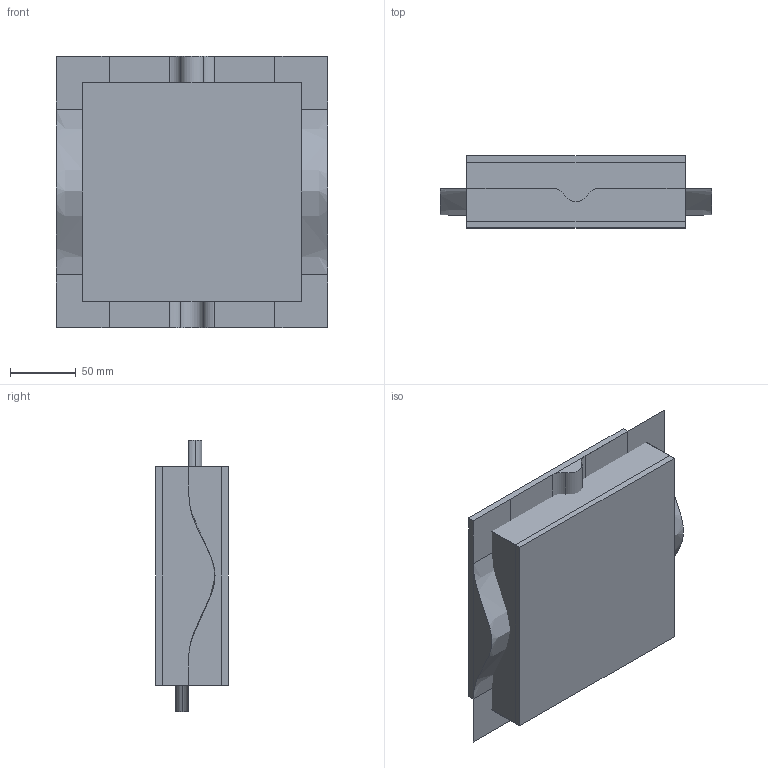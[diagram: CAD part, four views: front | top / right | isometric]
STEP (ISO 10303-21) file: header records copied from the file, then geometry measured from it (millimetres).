
FILE_DESCRIPTION(('CATIA V5 STEP Exchange'),'2;1');
FILE_NAME('C:\_Andres\UNIVERSIDAD\IQS\ASIGNATURAS\DAO\EXF\EXF-16172c\2inicio\Rabat_Riba_Ej02_v26.stp','2017-03-05T15:45:34+00:00',('none'),('none'),'CATIA Version 5-6 Release 2014 SP1 HF18','CATIA V5 STEP AP203','none');
FILE_SCHEMA(('CONFIG_CONTROL_DESIGN'));
Length unit declared in the file: millimetre
Products named in the file (1): Rabat_Riba_Ej02_v26
Bounding box: 206 x 55 x 206 mm (x, y, z)
Surface area: 275193.1 mm2
Topology: 3 solids, 10 shells, 72 faces, 205 edges, 150 vertices
Faces by surface type: bspline 32, plane 32, cylinder 6, extrusion 2
Entity records: 6230 total; most frequent: CARTESIAN_POINT 4913, ORIENTED_EDGE 288, DIRECTION 151, EDGE_CURVE 132, VERTEX_POINT 84, VECTOR 77, LINE 75, ADVANCED_FACE 72
